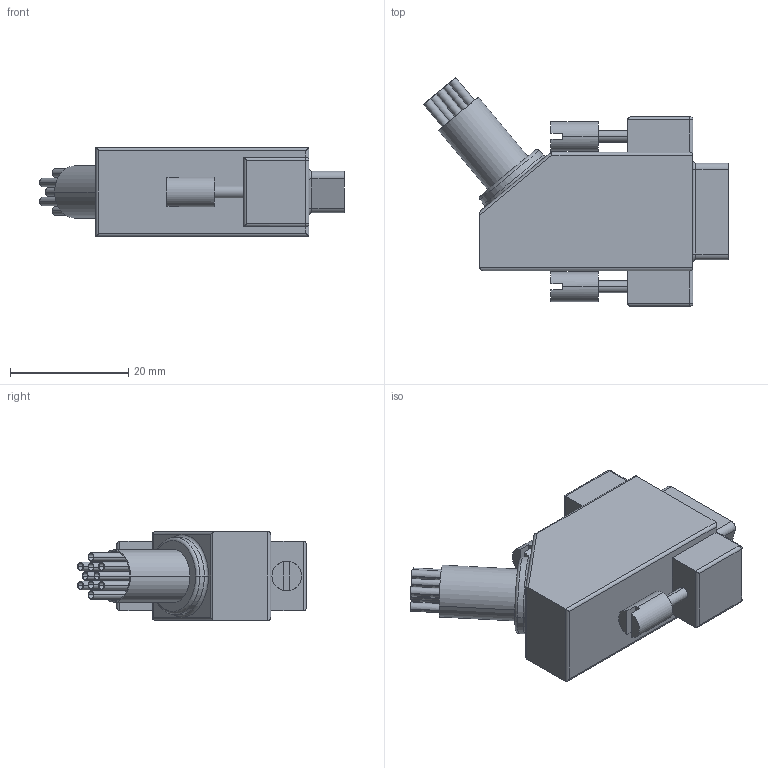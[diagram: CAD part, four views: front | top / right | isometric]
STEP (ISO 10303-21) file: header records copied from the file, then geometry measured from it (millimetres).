
FILE_DESCRIPTION (( 'STEP AP214' ), '1' );
FILE_NAME ('9R-1000.STEP', '2023-07-26T01:11:48', ( 'Windows User' ), ( 'P R C' ), 'SwSTEP 2.0', 'SolidWorks 2019', '' );
FILE_SCHEMA (( 'AUTOMOTIVE_DESIGN' ));
Length unit declared in the file: millimetre
Products named in the file (1): 9R-1000
Bounding box: 51.51 x 38.62 x 15 mm (x, y, z)
Volume: 12568.2 mm3; surface area: 7048.3 mm2
Topology: 4 solids, 4 shells, 194 faces, 416 edges, 258 vertices
Faces by surface type: cylinder 111, plane 69, torus 8, sphere 6
Entity records: 5307 total; most frequent: DIRECTION 994, CARTESIAN_POINT 917, ORIENTED_EDGE 820, EDGE_CURVE 410, AXIS2_PLACEMENT_3D 407, VERTEX_POINT 258, EDGE_LOOP 232, CIRCLE 212
